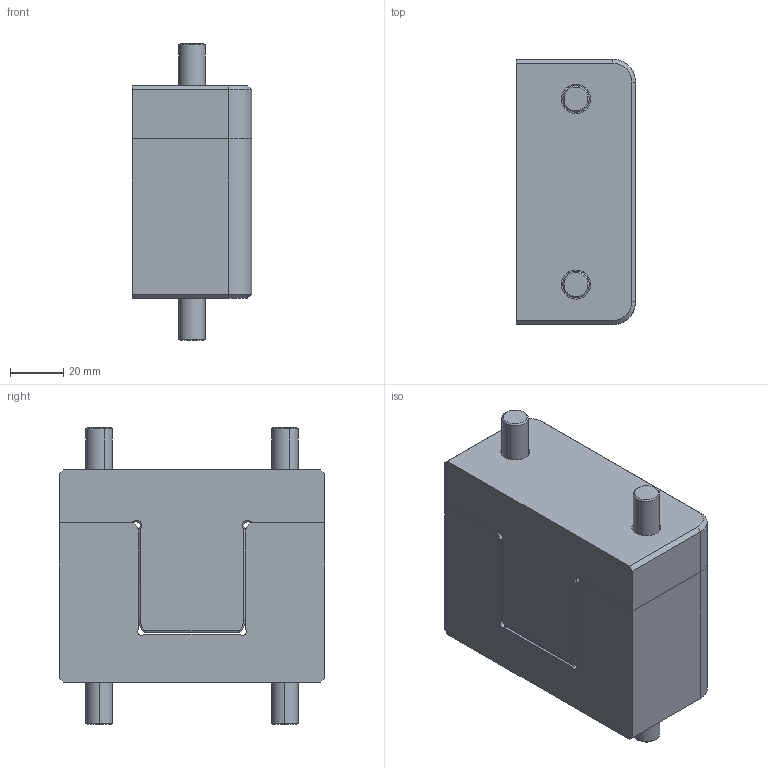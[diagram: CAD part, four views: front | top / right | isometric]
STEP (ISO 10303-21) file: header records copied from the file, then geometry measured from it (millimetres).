
FILE_DESCRIPTION (( 'STEP AP203' ), '1' );
FILE_NAME ('TLM45X100.step', '2018-03-16T16:56:51', ( '' ), ( '' ), 'SwSTEP 2.0', 'SolidWorks 2015', '' );
FILE_SCHEMA (( 'CONFIG_CONTROL_DESIGN' ));
Length unit declared in the file: millimetre
Products named in the file (5): M10_X_65; M10_X_25; TLM45X100 FEMALE; TLM45X100 MALE; TLM45X100
Assembly tree (6 placements, depth 2):
  TLM45X100
    TLM45X100 MALE
    TLM45X100 FEMALE
    M10_X_25  x2
    M10_X_65  x2
Bounding box: 45 x 100 x 112 mm (x, y, z)
Volume: 350951.3 mm3; surface area: 63032.4 mm2
Topology: 6 solids, 6 shells, 500 faces, 1066 edges, 698 vertices
Faces by surface type: cylinder 269, plane 185, torus 22, cone 20, bspline 4
Entity records: 13541 total; most frequent: DIRECTION 2464, CARTESIAN_POINT 2367, ORIENTED_EDGE 1980, AXIS2_PLACEMENT_3D 1035, EDGE_CURVE 990, VERTEX_POINT 650, EDGE_LOOP 588, CIRCLE 566
